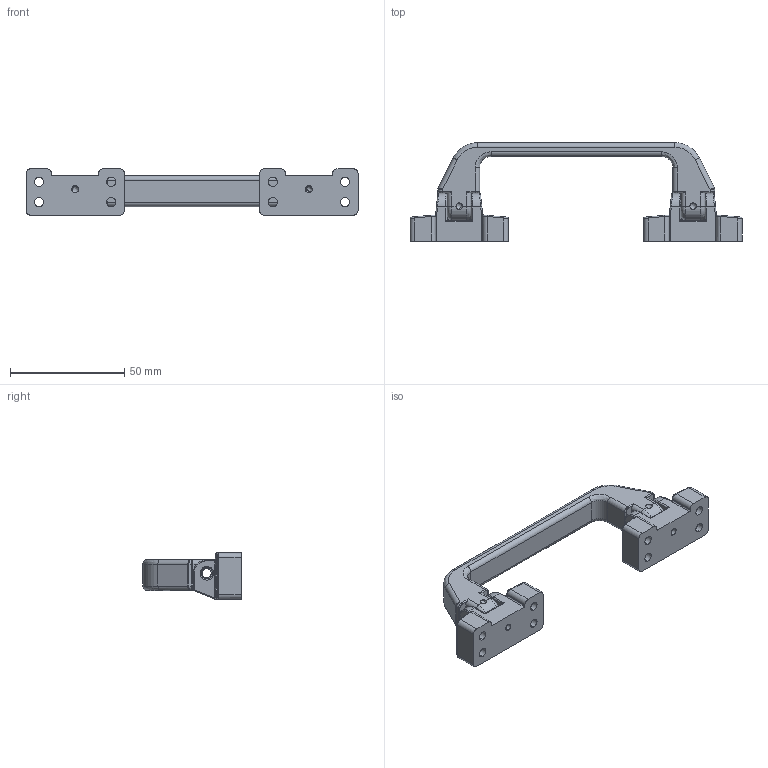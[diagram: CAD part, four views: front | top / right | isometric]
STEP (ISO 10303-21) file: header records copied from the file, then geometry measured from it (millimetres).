
FILE_DESCRIPTION (( 'STEP AP214' ), '1' );
FILE_NAME ('A32 KA-281.STEP', '2016-11-25T02:57:24', ( '' ), ( '' ), 'SwSTEP 2.0', 'SolidWorks 2011', '' );
FILE_SCHEMA (( 'AUTOMOTIVE_DESIGN' ));
Length unit declared in the file: millimetre
Products named in the file (1): A32 KA-281
Bounding box: 145.3 x 43.12 x 20.2 mm (x, y, z)
Volume: 31814.5 mm3; surface area: 16132.4 mm2
Topology: 1 solids, 1 shells, 580 faces, 1536 edges, 962 vertices
Faces by surface type: bspline 235, cylinder 197, plane 148
Entity records: 37719 total; most frequent: CARTESIAN_POINT 18931, ORIENTED_EDGE 3052, DIRECTION 1951, EDGE_CURVE 1526, VERTEX_POINT 962, AXIS2_PLACEMENT_3D 675, EDGE_LOOP 622, LINE 601
